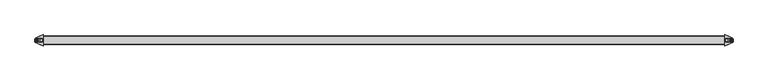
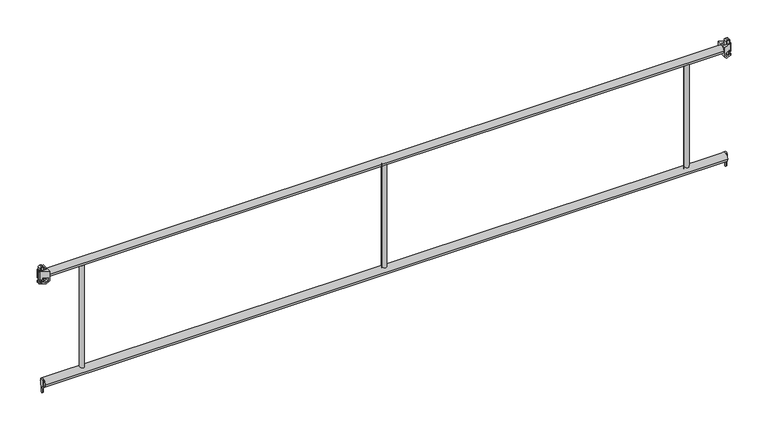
"""IFC4 building model written with IfcOpenShell, lengths in millimetres: proxy geometry, 14-Garde corps 300 : JPA Garde corps 300."""

from ifc_helpers import new_model, si_unit, point, frame, frame_2d, origin, place, context, project, spatial, polyline, circle_curve, trimmed, segment, composite_curve, outline, extrude, source, transform, mapped, element, save
from ifc_brep_helpers import plane_surface, cylinder_surface, advanced_brep


def generic_models_8fe25d63(model_context):
    return source(origin(), model_context, "Body", "SolidModel", [
        extrude(outline(composite_curve([segment(polyline([(-2.4229668, 436.3196865), (-6.8580558, 493.8408861)]), True, "CONTINUOUS"), segment(trimmed(circle_curve(frame_2d((0.6419442, 477.477818)), 18.0), [point((-6.8580558, 493.8408861))], [point((8.1419442, 493.8408861))], False, "CARTESIAN"), True, "CONTINUOUS"), segment(polyline([(8.1419442, 493.8408861), (3.7068553, 436.3196865)]), True, "CONTINUOUS"), segment(trimmed(circle_curve(frame_2d((0.6419442, 441.477818)), 6.0), [point((3.7068553, 436.3196865))], [point((-2.4229668, 436.3196865))], False, "CARTESIAN"), True, "CONTINUOUS")], self_intersect=False)), frame((2949.0, 0.0, 0.0), z_axis=(1.0, 0.0, 0.0), x_axis=(0.0, 1.0, 0.0)), (0.0, 0.0, 1.0), 5.0),
        extrude(outline(composite_curve([segment(polyline([(-2.4229668, 435.7925032), (-6.8580558, 493.3137029)]), True, "CONTINUOUS"), segment(trimmed(circle_curve(frame_2d((0.6419442, 476.9506347)), 18.0), [point((-6.8580558, 493.3137029))], [point((8.1419442, 493.3137029))], False, "CARTESIAN"), True, "CONTINUOUS"), segment(polyline([(8.1419442, 493.3137029), (3.7068553, 435.7925032)]), True, "CONTINUOUS"), segment(trimmed(circle_curve(frame_2d((0.6419442, 440.9506347)), 6.0), [point((3.7068553, 435.7925032))], [point((-2.4229668, 435.7925032))], False, "CARTESIAN"), True, "CONTINUOUS")], self_intersect=False)), frame((42.0, 0.0, 0.0), z_axis=(1.0, 0.0, 0.0), x_axis=(0.0, 1.0, 0.0)), (0.0, 0.0, 1.0), 5.0),
        extrude(outline(composite_curve([segment(trimmed(circle_curve(frame_2d((0.297038, 476.847759)), 18.0), [point((-17.702962, 476.847759))], [point((18.297038, 476.847759))], False, "CARTESIAN"), True, "CONTINUOUS"), segment(trimmed(circle_curve(frame_2d((0.297038, 476.847759)), 18.0), [point((18.297038, 476.847759))], [point((-17.702962, 476.847759))], False, "CARTESIAN"), True, "CONTINUOUS")], self_intersect=False)), frame((47.0, 0.0, 0.0), z_axis=(1.0, 0.0, 0.0), x_axis=(0.0, 1.0, 0.0)), (0.0, 0.0, 1.0), 2902.0),
        extrude(outline(composite_curve([segment(trimmed(circle_curve(frame_2d((2782.9915048, -0.9223222)), 10.0), [point((2772.9915048, -0.9223222))], [point((2792.9915048, -0.9223222))], False, "CARTESIAN"), True, "CONTINUOUS"), segment(trimmed(circle_curve(frame_2d((2782.9915048, -0.9223222)), 10.0), [point((2792.9915048, -0.9223222))], [point((2772.9915048, -0.9223222))], False, "CARTESIAN"), True, "CONTINUOUS")], self_intersect=False)), frame((0.0, 0.0, 480.0314455), z_axis=(0.0, 0.0, 1.0), x_axis=(1.0, 0.0, 0.0)), (0.0, 0.0, 1.0), 478.9191893),
        extrude(outline(composite_curve([segment(trimmed(circle_curve(frame_2d((1497.9915048, -0.9223222)), 10.0), [point((1487.9915048, -0.9223222))], [point((1507.9915048, -0.9223222))], False, "CARTESIAN"), True, "CONTINUOUS"), segment(trimmed(circle_curve(frame_2d((1497.9915048, -0.9223222)), 10.0), [point((1507.9915048, -0.9223222))], [point((1487.9915048, -0.9223222))], False, "CARTESIAN"), True, "CONTINUOUS")], self_intersect=False)), frame((0.0, 0.0, 487.3193118), z_axis=(0.0, 0.0, 1.0), x_axis=(1.0, 0.0, 0.0)), (0.0, 0.0, 1.0), 469.3806124),
        extrude(outline(composite_curve([segment(trimmed(circle_curve(frame_2d((211.7415048, -0.9223222)), 10.0), [point((201.7415048, -0.9223222))], [point((221.7415048, -0.9223222))], False, "CARTESIAN"), True, "CONTINUOUS"), segment(trimmed(circle_curve(frame_2d((211.7415048, -0.9223222)), 10.0), [point((221.7415048, -0.9223222))], [point((201.7415048, -0.9223222))], False, "CARTESIAN"), True, "CONTINUOUS")], self_intersect=False)), frame((0.0, 0.0, 487.3193118), z_axis=(0.0, 0.0, 1.0), x_axis=(1.0, 0.0, 0.0)), (0.0, 0.0, 1.0), 466.1759208),
        advanced_brep(
        [(62.06789, 24.6419442, 986.5933162), (29.9890912, 9.9773505, 986.5933162), (27.06789, 5.4299781, 986.5933162), (27.06789, -4.1460897, 986.5933162), (29.9890912, -8.6934621, 986.5933162), (62.06789, -23.3580558, 986.5933162), (57.06789, -6.8580558, 986.5933162), (32.06789, -6.8580558, 986.5933162), (32.06789, 8.1419442, 986.5933162), (57.06789, 8.1419442, 986.5933162), (29.9890912, -8.6934621, 932.5933162), (27.06789, -4.1460897, 932.5933162), (27.06789, 5.4299781, 932.5933162), (29.9890912, 9.9773505, 932.5933162), (50.0, 19.1251945, 932.5933162), (50.0, 8.1419442, 932.5933162), (32.06789, 8.1419442, 932.5933162), (32.06789, -6.8580558, 932.5933162), (50.0, -6.8580558, 932.5933162), (50.0, -17.8413061, 932.5933162), (62.06789, -23.3580558, 944.6612062), (62.06789, 24.6419442, 944.6612062), (29.9890912, -8.6934621, 950.9506347), (37.0, -11.8984489, 950.9506347), (37.0, -11.8984489, 958.9506347), (57.06789, -21.0723415, 958.9506347), (57.06789, -21.0723415, 944.6608672), (51.3576575, -18.4619495, 938.9506347), (29.9890912, -8.6934621, 938.9506347), (27.06789, -4.1460897, 950.9506347), (27.06789, -4.1460897, 938.9506347), (27.06789, 5.4299781, 950.9506347), (27.06789, 5.4299781, 938.9506347), (29.9890912, 9.9773505, 950.9506347), (29.9890912, 9.9773505, 938.9506347), (51.3576575, 19.7458379, 938.9506347), (57.06789, 22.3562299, 944.6608672), (57.06789, 22.3562299, 958.9506347), (37.0, 13.1823374, 958.9506347), (37.0, 13.1823374, 950.9506347), (57.06789, 8.1419442, 958.9506347), (57.06789, 8.1419442, 944.6608672), (57.06789, 8.1419442, 939.6612062), (57.06789, -6.8580558, 939.6612062), (57.06789, -6.8580558, 944.6608672), (57.06789, -6.8580558, 958.9506347), (32.06789, 8.1419442, 950.9506347), (37.0, 8.1419442, 950.9506347), (37.0, 8.1419442, 958.9506347), (51.3576575, 8.1419442, 938.9506347), (32.06789, 8.1419442, 938.9506347), (32.06789, -6.8580558, 950.9506347), (32.06789, -6.8580558, 938.9506347), (37.0, -6.8580558, 958.9506347), (37.0, -6.8580558, 950.9506347), (51.3576575, -6.8580558, 938.9506347)],
        [
            (0, 1),
            (1, 2, circle_curve(frame((32.06789, 5.4299781, 986.5933162), z_axis=(0.0, 0.0, 1.0), x_axis=(-0.841355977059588, 0.5404813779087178, 0.0)), 5.0)),
            (2, 3),
            (3, 4, circle_curve(frame((32.06789, -4.1460897, 986.5933162), z_axis=(0.0, 0.0, 1.0), x_axis=(-0.8413559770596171, -0.5404813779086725, 0.0)), 5.0)),
            (4, 5),
            (5, 0),
            (6, 7),
            (7, 8),
            (8, 9),
            (9, 6),
            (10, 11, circle_curve(frame((32.06789, -4.1460897, 932.5933162), z_axis=(0.0, 0.0, -1.0), x_axis=(-0.8413559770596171, -0.5404813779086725, 0.0)), 5.0)),
            (11, 12),
            (12, 13, circle_curve(frame((32.06789, 5.4299781, 932.5933162), z_axis=(0.0, 0.0, -1.0), x_axis=(-0.841355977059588, 0.5404813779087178, 0.0)), 5.0)),
            (13, 14),
            (14, 15),
            (15, 16),
            (16, 17),
            (17, 18),
            (18, 19),
            (19, 10),
            (5, 20),
            (20, 21),
            (21, 0),
            (4, 22),
            (22, 23),
            (23, 24),
            (24, 25),
            (25, 26),
            (26, 27),
            (27, 28),
            (28, 10),
            (19, 20),
            (3, 29),
            (29, 22, circle_curve(frame((32.06789, -4.1460897, 950.9506347), z_axis=(0.0, 0.0, 1.0), x_axis=(-0.8413559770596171, -0.5404813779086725, 0.0)), 5.0)),
            (28, 30, circle_curve(frame((32.06789, -4.1460897, 938.9506347), z_axis=(0.0, 0.0, -1.0), x_axis=(-0.8413559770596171, -0.5404813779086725, 0.0)), 5.0)),
            (30, 11),
            (2, 31),
            (31, 29),
            (30, 32),
            (32, 12),
            (1, 33),
            (33, 31, circle_curve(frame((32.06789, 5.4299781, 950.9506347), z_axis=(0.0, 0.0, 1.0), x_axis=(-0.841355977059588, 0.5404813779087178, 0.0)), 5.0)),
            (32, 34, circle_curve(frame((32.06789, 5.4299781, 938.9506347), z_axis=(0.0, 0.0, -1.0), x_axis=(-0.841355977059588, 0.5404813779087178, 0.0)), 5.0)),
            (34, 13),
            (21, 14),
            (34, 35),
            (35, 36),
            (36, 37),
            (37, 38),
            (38, 39),
            (39, 33),
            (9, 40),
            (40, 37),
            (36, 41),
            (41, 42),
            (42, 43),
            (43, 44),
            (44, 26),
            (25, 45),
            (45, 6),
            (8, 46),
            (46, 47),
            (47, 48),
            (48, 40),
            (15, 42),
            (41, 49),
            (49, 50),
            (50, 16),
            (7, 51),
            (51, 46),
            (50, 52),
            (52, 17),
            (45, 53),
            (53, 54),
            (54, 51),
            (52, 55),
            (55, 44),
            (43, 18),
            (39, 47),
            (54, 23),
            (49, 35),
            (27, 55),
            (48, 38),
            (24, 53),
        ],
        [
            plane_surface(frame((62.06789, 24.6419442, 986.5933162), z_axis=(0.0, 0.0, 1.0), x_axis=(-0.9094744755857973, -0.41575976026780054, 0.0))),
            plane_surface(frame((62.06789, 24.6419442, 932.5933162), z_axis=(0.0, 0.0, -1.0), x_axis=(0.9094744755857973, 0.41575976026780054, 0.0))),
            plane_surface(frame((62.06789, -23.3580558, 986.5933162), z_axis=(1.0, 0.0, 0.0), x_axis=(0.0, 0.0, -1.0))),
            plane_surface(frame((29.9890912, -8.6934621, 986.5933162), z_axis=(-0.4157597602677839, -0.909474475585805, 0.0), x_axis=(0.0, 0.0, -1.0))),
            cylinder_surface(frame((32.06789, -4.1460897, 932.5933162), z_axis=(0.0, 0.0, 1.0), x_axis=(-0.8413559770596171, -0.5404813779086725, 0.0)), 5.0),
            plane_surface(frame((27.06789, 5.4299781, 986.5933162), z_axis=(-1.0, 0.0, 0.0), x_axis=(0.0, 0.0, -1.0))),
            cylinder_surface(frame((32.06789, 5.4299781, 932.5933162), z_axis=(0.0, 0.0, 1.0), x_axis=(-0.841355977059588, 0.5404813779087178, 0.0)), 5.0),
            plane_surface(frame((62.06789, 24.6419442, 986.5933162), z_axis=(-0.41575976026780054, 0.9094744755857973, 0.0), x_axis=(0.0, 0.0, -1.0))),
            plane_surface(frame((57.06789, 8.1419442, 986.5933162), z_axis=(-1.0, 0.0, 0.0), x_axis=(0.0, 0.0, -1.0))),
            plane_surface(frame((32.06789, 8.1419442, 986.5933162), z_axis=(0.0, -1.0, 0.0), x_axis=(0.0, 0.0, -1.0))),
            plane_surface(frame((32.06789, -6.8580558, 986.5933162), z_axis=(1.0, 0.0, 0.0), x_axis=(0.0, 0.0, -1.0))),
            plane_surface(frame((57.06789, -6.8580558, 986.5933162), z_axis=(0.0, 1.0, 0.0), x_axis=(0.0, 0.0, -1.0))),
            plane_surface(frame((64.7655104, -45.631889, 947.3588266), z_axis=(0.7071067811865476, 0.0, -0.7071067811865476), x_axis=(0.0, 1.0, 0.0))),
            plane_surface(frame((37.0, -45.631889, 950.9506347), z_axis=(0.0, 0.0, -1.0), x_axis=(0.0, 1.0, 0.0))),
            plane_surface(frame((25.6273724, -45.631889, 938.9506347), z_axis=(0.0, 0.0, 1.0), x_axis=(0.0, 1.0, 0.0))),
            plane_surface(frame((51.3576575, -45.631889, 938.9506347), z_axis=(-0.7071067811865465, 0.0, 0.7071067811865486), x_axis=(0.0, 1.0, 0.0))),
            plane_surface(frame((57.06789, -45.631889, 958.9506347), z_axis=(0.0, 0.0, -1.0), x_axis=(0.0, 1.0, 0.0))),
            plane_surface(frame((37.0, -45.631889, 958.9506347), z_axis=(1.0, 0.0, 0.0), x_axis=(0.0, 1.0, 0.0))),
        ],
        [
            (0, [[1, 2, 3, 4, 5, 6], [7, 8, 9, 10]]),
            (1, [[11, 12, 13, 14, 15, 16, 17, 18, 19, 20]]),
            (2, [[-6, 21, 22, 23]]),
            (3, [[-5, 24, 25, 26, 27, 28, 29, 30, 31, -20, 32, -21]]),
            (4, [[-4, 33, 34, -24]]),
            (4, [[-11, -31, 35, 36]]),
            (5, [[-3, 37, 38, -33]]),
            (5, [[-12, -36, 39, 40]]),
            (6, [[-2, 41, 42, -37]]),
            (6, [[-13, -40, 43, 44]]),
            (7, [[-1, -23, 45, -14, -44, 46, 47, 48, 49, 50, 51, -41]]),
            (8, [[-10, 52, 53, -48, 54, 55, 56, 57, 58, -28, 59, 60]]),
            (9, [[-9, 61, 62, 63, 64, -52]]),
            (9, [[-16, 65, -55, 66, 67, 68]]),
            (10, [[-8, 69, 70, -61]]),
            (10, [[-17, -68, 71, 72]]),
            (11, [[-7, -60, 73, 74, 75, -69]]),
            (11, [[-18, -72, 76, 77, -57, 78]]),
            (12, [[-19, -78, -56, -65, -15, -45, -22, -32]]),
            (13, [[79, -62, -70, -75, 80, -25, -34, -38, -42, -51]]),
            (14, [[81, -46, -43, -39, -35, -30, 82, -76, -71, -67]]),
            (15, [[-81, -66, -54, -47]]),
            (15, [[-82, -29, -58, -77]]),
            (16, [[-53, -64, 83, -49]]),
            (16, [[-59, -27, 84, -73]]),
            (17, [[-79, -50, -83, -63]]),
            (17, [[-80, -74, -84, -26]]),
        ],
    ),
        extrude(outline(composite_curve([segment(polyline([(932.8346955, 46.9644417), (997.8346955, 46.9644417)]), True, "CONTINUOUS"), segment(trimmed(circle_curve(frame_2d((997.8346955, 41.9644417)), 5.0), [point((997.8346955, 46.9644417))], [point((1002.8346955, 41.9644417))], False, "CARTESIAN"), True, "CONTINUOUS"), segment(polyline([(1002.8346955, 41.9644417), (1002.8346955, 36.1484394)]), True, "CONTINUOUS"), segment(trimmed(circle_curve(frame_2d((997.8346955, 36.1484394)), 5.0), [point((1002.8346955, 36.1484394))], [point((997.4194681, 31.1657107))], False, "CARTESIAN"), True, "CONTINUOUS"), segment(polyline([(997.4194681, 31.1657107), (986.5933162, 32.06789), (932.4194681, 36.5823773)]), True, "CONTINUOUS"), segment(trimmed(circle_curve(frame_2d((932.8346955, 41.5651061)), 5.0), [point((932.4194681, 36.5823773))], [point((927.8386838, 41.7647739))], False, "CARTESIAN"), True, "CONTINUOUS"), segment(trimmed(circle_curve(frame_2d((932.8346955, 41.9644417)), 5.0), [point((927.8386838, 41.7647739))], [point((932.8346955, 46.9644417))], False, "CARTESIAN"), True, "CONTINUOUS")], self_intersect=False), holes=[composite_curve([segment(polyline([(932.585559, 38.5754688), (997.585559, 33.1588022)]), True, "CONTINUOUS"), segment(trimmed(circle_curve(frame_2d((997.8346955, 36.1484394)), 3.0), [point((997.585559, 33.1588022))], [point((1000.8346955, 36.1484394))], True, "CARTESIAN"), True, "CONTINUOUS"), segment(polyline([(1000.8346955, 36.1484394), (1000.8346955, 41.9644417)]), True, "CONTINUOUS"), segment(trimmed(circle_curve(frame_2d((997.8346955, 41.9644417)), 3.0), [point((1000.8346955, 41.9644417))], [point((997.8346955, 44.9644417))], True, "CARTESIAN"), True, "CONTINUOUS"), segment(polyline([(997.8346955, 44.9644417), (932.8346955, 44.9644417)]), True, "CONTINUOUS"), segment(trimmed(circle_curve(frame_2d((932.8346955, 41.9644417)), 3.0), [point((932.8346955, 44.9644417))], [point((929.8413474, 41.7647739))], True, "CARTESIAN"), True, "CONTINUOUS"), segment(trimmed(circle_curve(frame_2d((932.8346955, 41.5651061)), 3.0), [point((929.8413474, 41.7647739))], [point((932.585559, 38.5754688))], True, "CARTESIAN"), True, "CONTINUOUS")], self_intersect=False)]), frame((0.0, -6.8580558, 0.0), z_axis=(0.0, 1.0, 0.0), x_axis=(0.0, 0.0, 1.0)), (0.0, 0.0, 1.0), 15.0),
        extrude(outline(composite_curve([segment(trimmed(circle_curve(frame_2d((0.3818, 966.0774606)), 16.0), [point((-15.6182, 966.0774606))], [point((16.3818, 966.0774606))], False, "CARTESIAN"), True, "CONTINUOUS"), segment(trimmed(circle_curve(frame_2d((0.3818, 966.0774606)), 16.0), [point((16.3818, 966.0774606))], [point((-15.6182, 966.0774606))], False, "CARTESIAN"), True, "CONTINUOUS")], self_intersect=False)), frame((62.0, 0.0, 0.0), z_axis=(1.0, 0.0, 0.0), x_axis=(0.0, 1.0, 0.0)), (0.0, 0.0, 1.0), 2872.0),
        extrude(outline(composite_curve([segment(trimmed(circle_curve(frame_2d((932.8346955, 2954.1034483)), 5.0), [point((932.8346955, 2949.1034483))], [point((927.8386838, 2954.3031161))], False, "CARTESIAN"), True, "CONTINUOUS"), segment(trimmed(circle_curve(frame_2d((932.8346955, 2954.5027839)), 5.0), [point((927.8386838, 2954.3031161))], [point((932.4194681, 2959.4855127))], False, "CARTESIAN"), True, "CONTINUOUS"), segment(polyline([(932.4194681, 2959.4855127), (986.5933162, 2964.0), (997.4194681, 2964.9021793)]), True, "CONTINUOUS"), segment(trimmed(circle_curve(frame_2d((997.8346955, 2959.9194505)), 5.0), [point((997.4194681, 2964.9021793))], [point((1002.8346955, 2959.9194505))], False, "CARTESIAN"), True, "CONTINUOUS"), segment(polyline([(1002.8346955, 2959.9194505), (1002.8346955, 2954.1034483)]), True, "CONTINUOUS"), segment(trimmed(circle_curve(frame_2d((997.8346955, 2954.1034483)), 5.0), [point((1002.8346955, 2954.1034483))], [point((997.8346955, 2949.1034483))], False, "CARTESIAN"), True, "CONTINUOUS"), segment(polyline([(997.8346955, 2949.1034483), (932.8346955, 2949.1034483)]), True, "CONTINUOUS")], self_intersect=False), holes=[composite_curve([segment(trimmed(circle_curve(frame_2d((932.8346955, 2954.5027839)), 3.0), [point((932.585559, 2957.4924211))], [point((929.8413474, 2954.3031161))], True, "CARTESIAN"), True, "CONTINUOUS"), segment(trimmed(circle_curve(frame_2d((932.8346955, 2954.1034483)), 3.0), [point((929.8413474, 2954.3031161))], [point((932.8346955, 2951.1034483))], True, "CARTESIAN"), True, "CONTINUOUS"), segment(polyline([(932.8346955, 2951.1034483), (997.8346955, 2951.1034483)]), True, "CONTINUOUS"), segment(trimmed(circle_curve(frame_2d((997.8346955, 2954.1034483)), 3.0), [point((997.8346955, 2951.1034483))], [point((1000.8346955, 2954.1034483))], True, "CARTESIAN"), True, "CONTINUOUS"), segment(polyline([(1000.8346955, 2954.1034483), (1000.8346955, 2959.9194505)]), True, "CONTINUOUS"), segment(trimmed(circle_curve(frame_2d((997.8346955, 2959.9194505)), 3.0), [point((1000.8346955, 2959.9194505))], [point((997.585559, 2962.9090878))], True, "CARTESIAN"), True, "CONTINUOUS"), segment(polyline([(997.585559, 2962.9090878), (932.585559, 2957.4924211)]), True, "CONTINUOUS")], self_intersect=False)]), frame((0.0, -6.8580558, 0.0), z_axis=(0.0, 1.0, 0.0), x_axis=(0.0, 0.0, 1.0)), (0.0, 0.0, 1.0), 15.0),
        advanced_brep(
        [(2934.0, 24.6419442, 986.5933162), (2934.0, -23.3580558, 986.5933162), (2966.0787988, -8.6934621, 986.5933162), (2969.0, -4.1460897, 986.5933162), (2969.0, 5.4299781, 986.5933162), (2966.0787988, 9.9773505, 986.5933162), (2939.0, -6.8580558, 986.5933162), (2939.0, 8.1419442, 986.5933162), (2964.0, 8.1419442, 986.5933162), (2964.0, -6.8580558, 986.5933162), (2966.0787988, 9.9773505, 932.5933162), (2969.0, 5.4299781, 932.5933162), (2969.0, -4.1460897, 932.5933162), (2966.0787988, -8.6934621, 932.5933162), (2946.0, -17.8723415, 932.5933162), (2946.0, -6.8580558, 932.5933162), (2964.0, -6.8580558, 932.5933162), (2964.0, 8.1419442, 932.5933162), (2946.0, 8.1419442, 932.5933162), (2946.0, 19.1562299, 932.5933162), (2934.0, 24.6419442, 944.5933162), (2934.0, -23.3580558, 944.5933162), (2966.0787988, -8.6934621, 938.9506347), (2944.6709916, -18.4798882, 938.9506347), (2939.0, -21.0723415, 944.5933162), (2939.0, -21.0723415, 958.9506347), (2959.0, -11.9294844, 958.9506347), (2959.0, -11.9294844, 950.9506347), (2966.0787988, -8.6934621, 950.9506347), (2969.0, -4.1460897, 950.9506347), (2969.0, -4.1460897, 938.9506347), (2969.0, 5.4299781, 950.9506347), (2969.0, 5.4299781, 938.9506347), (2966.0787988, 9.9773505, 950.9506347), (2966.0787988, 9.9773505, 938.9506347), (2959.0, 13.2133728, 950.9506347), (2959.0, 13.2133728, 958.9506347), (2939.0, 22.3562299, 958.9506347), (2939.0, 22.3562299, 944.5933162), (2944.6709916, 19.7637766, 938.9506347), (2939.0, -6.8580558, 958.9506347), (2939.0, -6.8580558, 944.5933162), (2939.0, -6.8580558, 939.5933162), (2939.0, 8.1419442, 939.5933162), (2939.0, 8.1419442, 944.5933162), (2939.0, 8.1419442, 958.9506347), (2959.0, 8.1419442, 958.9506347), (2959.0, 8.1419442, 950.9506347), (2964.0, 8.1419442, 950.9506347), (2964.0, 8.1419442, 938.9506347), (2944.6709916, 8.1419442, 938.9506347), (2964.0, -6.8580558, 950.9506347), (2964.0, -6.8580558, 938.9506347), (2959.0, -6.8580558, 950.9506347), (2959.0, -6.8580558, 958.9506347), (2944.6709916, -6.8580558, 938.9506347)],
        [
            (0, 1),
            (1, 2),
            (2, 3, circle_curve(frame((2964.0, -4.1460897, 986.5933162), z_axis=(0.0, 0.0, 1.0), x_axis=(0.8413559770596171, -0.5404813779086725, 0.0)), 5.0)),
            (3, 4),
            (4, 5, circle_curve(frame((2964.0, 5.4299781, 986.5933162), z_axis=(0.0, 0.0, 1.0), x_axis=(0.841355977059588, 0.5404813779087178, 0.0)), 5.0)),
            (5, 0),
            (6, 7),
            (7, 8),
            (8, 9),
            (9, 6),
            (10, 11, circle_curve(frame((2964.0, 5.4299781, 932.5933162), z_axis=(0.0, 0.0, -1.0), x_axis=(0.841355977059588, 0.5404813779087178, 0.0)), 5.0)),
            (11, 12),
            (12, 13, circle_curve(frame((2964.0, -4.1460897, 932.5933162), z_axis=(0.0, 0.0, -1.0), x_axis=(0.8413559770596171, -0.5404813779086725, 0.0)), 5.0)),
            (13, 14),
            (14, 15),
            (15, 16),
            (16, 17),
            (17, 18),
            (18, 19),
            (19, 10),
            (0, 20),
            (20, 21),
            (21, 1),
            (21, 14),
            (13, 22),
            (22, 23),
            (23, 24),
            (24, 25),
            (25, 26),
            (26, 27),
            (27, 28),
            (28, 2),
            (28, 29, circle_curve(frame((2964.0, -4.1460897, 950.9506347), z_axis=(0.0, 0.0, 1.0), x_axis=(0.8413559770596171, -0.5404813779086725, 0.0)), 5.0)),
            (29, 3),
            (12, 30),
            (30, 22, circle_curve(frame((2964.0, -4.1460897, 938.9506347), z_axis=(0.0, 0.0, -1.0), x_axis=(0.8413559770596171, -0.5404813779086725, 0.0)), 5.0)),
            (29, 31),
            (31, 4),
            (11, 32),
            (32, 30),
            (31, 33, circle_curve(frame((2964.0, 5.4299781, 950.9506347), z_axis=(0.0, 0.0, 1.0), x_axis=(0.841355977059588, 0.5404813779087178, 0.0)), 5.0)),
            (33, 5),
            (10, 34),
            (34, 32, circle_curve(frame((2964.0, 5.4299781, 938.9506347), z_axis=(0.0, 0.0, -1.0), x_axis=(0.841355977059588, 0.5404813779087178, 0.0)), 5.0)),
            (33, 35),
            (35, 36),
            (36, 37),
            (37, 38),
            (38, 39),
            (39, 34),
            (19, 20),
            (6, 40),
            (40, 25),
            (24, 41),
            (41, 42),
            (42, 43),
            (43, 44),
            (44, 38),
            (37, 45),
            (45, 7),
            (45, 46),
            (46, 47),
            (47, 48),
            (48, 8),
            (17, 49),
            (49, 50),
            (50, 44),
            (43, 18),
            (48, 51),
            (51, 9),
            (16, 52),
            (52, 49),
            (51, 53),
            (53, 54),
            (54, 40),
            (15, 42),
            (41, 55),
            (55, 52),
            (36, 46),
            (54, 26),
            (23, 55),
            (50, 39),
            (47, 35),
            (27, 53),
        ],
        [
            plane_surface(frame((2934.0, -23.3580558, 986.5933162), z_axis=(0.0, 0.0, 1.0), x_axis=(0.0, -1.0, 0.0))),
            plane_surface(frame((2934.0, -23.3580558, 932.5933162), z_axis=(0.0, 0.0, -1.0), x_axis=(0.0, 1.0, 0.0))),
            plane_surface(frame((2934.0, 24.6419442, 986.5933162), z_axis=(-1.0, 0.0, 0.0), x_axis=(0.0, 0.0, -1.0))),
            plane_surface(frame((2934.0, -23.3580558, 986.5933162), z_axis=(0.41575976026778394, -0.9094744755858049, 0.0), x_axis=(0.0, 0.0, -1.0))),
            cylinder_surface(frame((2964.0, -4.1460897, 932.5933162), z_axis=(0.0, 0.0, 1.0), x_axis=(0.8413559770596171, -0.5404813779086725, 0.0)), 5.0),
            plane_surface(frame((2969.0, -4.1460897, 986.5933162), z_axis=(1.0, 0.0, 0.0), x_axis=(0.0, 0.0, -1.0))),
            cylinder_surface(frame((2964.0, 5.4299781, 932.5933162), z_axis=(0.0, 0.0, 1.0), x_axis=(0.841355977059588, 0.5404813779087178, 0.0)), 5.0),
            plane_surface(frame((2966.0787988, 9.9773505, 986.5933162), z_axis=(0.41575976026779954, 0.9094744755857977, 0.0), x_axis=(0.0, 0.0, -1.0))),
            plane_surface(frame((2939.0, -6.8580558, 986.5933162), z_axis=(1.0, 0.0, 0.0), x_axis=(0.0, 0.0, -1.0))),
            plane_surface(frame((2939.0, 8.1419442, 986.5933162), z_axis=(0.0, -1.0, 0.0), x_axis=(0.0, 0.0, -1.0))),
            plane_surface(frame((2964.0, 8.1419442, 986.5933162), z_axis=(-1.0, 0.0, 0.0), x_axis=(0.0, 0.0, -1.0))),
            plane_surface(frame((2964.0, -6.8580558, 986.5933162), z_axis=(0.0, 1.0, 0.0), x_axis=(0.0, 0.0, -1.0))),
            plane_surface(frame((2955.2132034, -41.5066437, 923.3801127), z_axis=(-0.707106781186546, 0.0, -0.7071067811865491), x_axis=(0.0, 1.0, 0.0))),
            plane_surface(frame((2959.0, -41.5066437, 958.9506347), z_axis=(0.0, 0.0, -1.0), x_axis=(0.0, 1.0, 0.0))),
            plane_surface(frame((2939.0, -41.5066437, 944.5933162), z_axis=(0.7053351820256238, 0.0, 0.7088739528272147), x_axis=(0.0, 1.0, 0.0))),
            plane_surface(frame((2944.6709916, -41.5066437, 938.9506347), z_axis=(0.0, 0.0, 1.0), x_axis=(0.0, 1.0, 0.0))),
            plane_surface(frame((2974.168117, -41.5066437, 950.9506347), z_axis=(0.0, 0.0, -1.0), x_axis=(0.0, 1.0, 0.0))),
            plane_surface(frame((2959.0, -41.5066437, 950.9506347), z_axis=(-1.0, 0.0, 0.0), x_axis=(0.0, 1.0, 0.0))),
        ],
        [
            (0, [[1, 2, 3, 4, 5, 6], [7, 8, 9, 10]]),
            (1, [[11, 12, 13, 14, 15, 16, 17, 18, 19, 20]]),
            (2, [[-1, 21, 22, 23]]),
            (3, [[-2, -23, 24, -14, 25, 26, 27, 28, 29, 30, 31, 32]]),
            (4, [[-3, -32, 33, 34]]),
            (4, [[-13, 35, 36, -25]]),
            (5, [[-4, -34, 37, 38]]),
            (5, [[-12, 39, 40, -35]]),
            (6, [[-5, -38, 41, 42]]),
            (6, [[-11, 43, 44, -39]]),
            (7, [[-6, -42, 45, 46, 47, 48, 49, 50, -43, -20, 51, -21]]),
            (8, [[-7, 52, 53, -28, 54, 55, 56, 57, 58, -48, 59, 60]]),
            (9, [[-8, -60, 61, 62, 63, 64]]),
            (9, [[-18, 65, 66, 67, -57, 68]]),
            (10, [[-9, -64, 69, 70]]),
            (10, [[-17, 71, 72, -65]]),
            (11, [[-10, -70, 73, 74, 75, -52]]),
            (11, [[-16, 76, -55, 77, 78, -71]]),
            (12, [[-19, -68, -56, -76, -15, -24, -22, -51]]),
            (13, [[79, -61, -59, -47]]),
            (13, [[80, -29, -53, -75]]),
            (14, [[-54, -27, 81, -77]]),
            (14, [[-58, -67, 82, -49]]),
            (15, [[-82, -66, -72, -78, -81, -26, -36, -40, -44, -50]]),
            (16, [[83, -45, -41, -37, -33, -31, 84, -73, -69, -63]]),
            (17, [[-79, -46, -83, -62]]),
            (17, [[-80, -74, -84, -30]]),
        ],
    ),
    ])


if __name__ == "__main__":
    model = new_model("IFC4")
    model_context = context("Model", 3, world=origin())
    ifc_project = project(units=[si_unit("LENGTHUNIT", "METRE", prefix="MILLI")], contexts=[model_context])
    site = spatial("IfcSite", under=ifc_project)
    building = spatial("IfcBuilding", under=site)
    placement = place(None, origin())
    generic_models_shape = generic_models_8fe25d63(model_context)
    element("IfcBuildingElementProxy", 1, Name="14-Garde corps 300 : JPA Garde corps 300", ObjectType="14-Garde corps 300 : JPA Garde corps 300", at=placement, inside=building, context=model_context, shape_type="MappedRepresentation", body=[
        mapped(generic_models_shape, transform((0.0, 0.0, 0.0), x_axis=(1.0, 0.0, 0.0), y_axis=(0.0, 1.0, 0.0), z_axis=(0.0, 0.0, 1.0))),
    ])
    save(model, "model.ifc")
